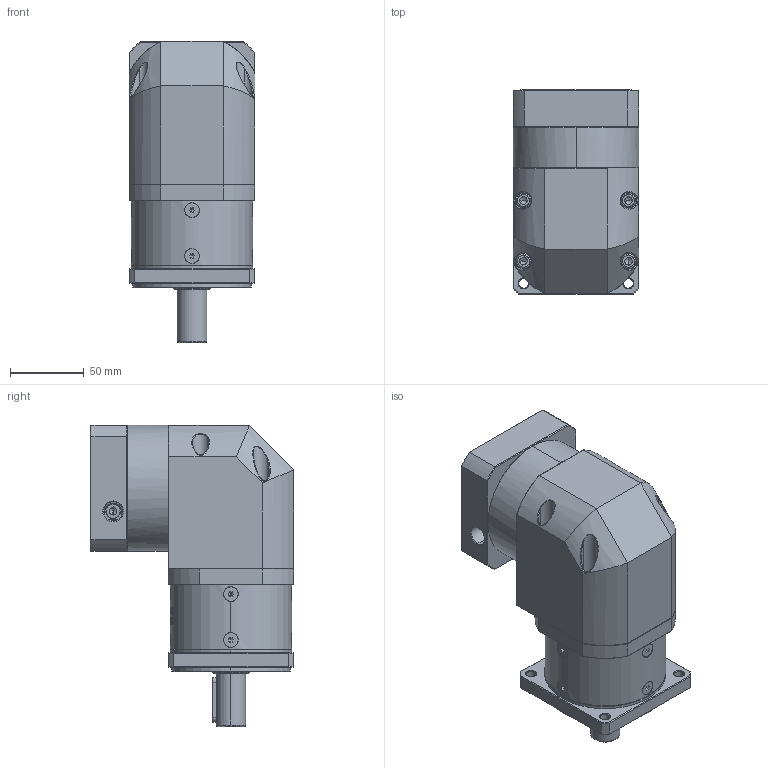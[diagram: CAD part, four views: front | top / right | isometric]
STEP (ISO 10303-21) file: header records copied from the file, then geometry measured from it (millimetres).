
FILE_DESCRIPTION (( 'STEP AP214' ), '1' );
FILE_NAME ('ZFR080-D20-L1-P2-14-73-69.6X69.6-M6.step', '2023-08-25T03:48:31', ( '' ), ( '' ), 'SwSTEP 2.0', 'SolidWorks 2016', '' );
FILE_SCHEMA (( 'AUTOMOTIVE_DESIGN' ));
Length unit declared in the file: millimetre
Products named in the file (1): ZFR080-D20-L1-P2-14-73-69.6X69.6-M6
Bounding box: 85 x 137.6 x 203.5 mm (x, y, z)
Volume: 1253005.5 mm3; surface area: 134915.4 mm2
Topology: 13 solids, 13 shells, 2430 faces, 6249 edges, 3925 vertices
Faces by surface type: plane 1194, cylinder 425, bspline 418, cone 359, torus 34
Entity records: 126536 total; most frequent: CARTESIAN_POINT 45950, ORIENTED_EDGE 12406, DIRECTION 9458, EDGE_CURVE 6203, VERTEX_POINT 3925, LINE 3358, VECTOR 3358, AXIS2_PLACEMENT_3D 3050
